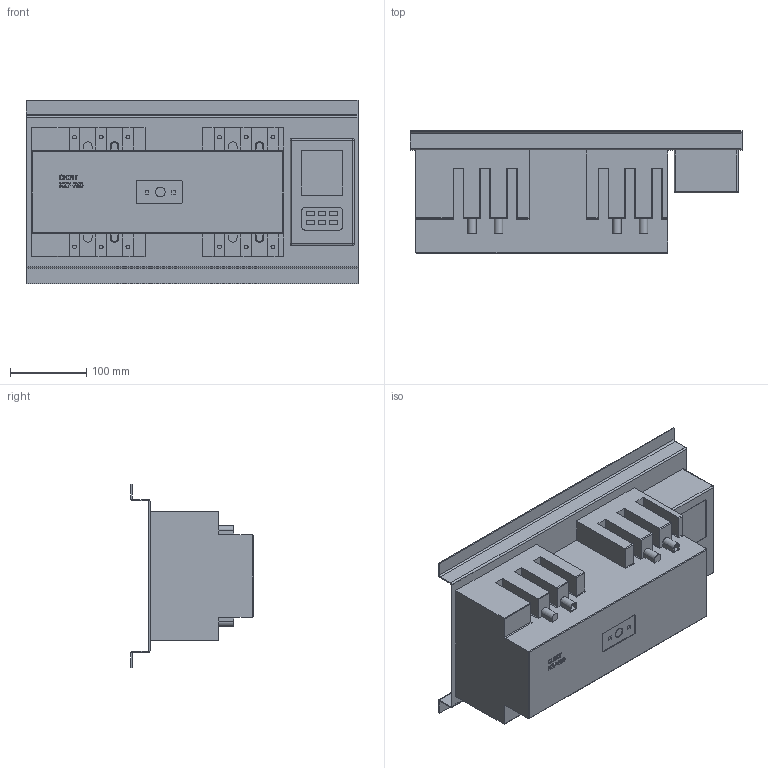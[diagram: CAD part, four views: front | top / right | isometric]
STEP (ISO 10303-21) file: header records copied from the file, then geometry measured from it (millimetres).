
FILE_DESCRIPTION(/* description */ ('','CAx-IF Rec.Pracs.---Representation and Presentation of Product Manufacturing Information (PMI)---3.8---2014-02-18'),/* implementation_level */ '2;1');
FILE_NAME(/* name */ 'C:\Users\ILYA\Desktop\NZ7\NZ7-250(3P)\NZ7-250(3P).stp',/* time_stamp */ '2017-08-16T21:14:03+03:00',/* author */ ('ILYA'),/* organization */ (''),/* preprocessor_version */ 'ST-DEVELOPER v16.1',/* originating_system */ 'Autodesk Inventor 2016',/* authorisation */ '');
FILE_SCHEMA (('AP242_MANAGED_MODEL_BASED_3D_ENGINEERING_MIM_LF { 1 0 10303 442 1 1 4 }'));
Length unit declared in the file: millimetre
Products named in the file (1): NZ7-250(3P)
Bounding box: 435 x 160 x 240 mm (x, y, z)
Volume: 6739635.3 mm3; surface area: 470740.5 mm2
Topology: 1 solids, 1 shells, 483 faces, 1278 edges, 844 vertices
Faces by surface type: plane 299, cylinder 128, bspline 52, sphere 4
Full cylindrical faces by diameter (mm): 5 x12, 13 x1
Entity records: 15357 total; most frequent: CARTESIAN_POINT 3430, ORIENTED_EDGE 2530, DIRECTION 2269, EDGE_CURVE 1265, LINE 917, VECTOR 917, VERTEX_POINT 844, AXIS2_PLACEMENT_3D 676
